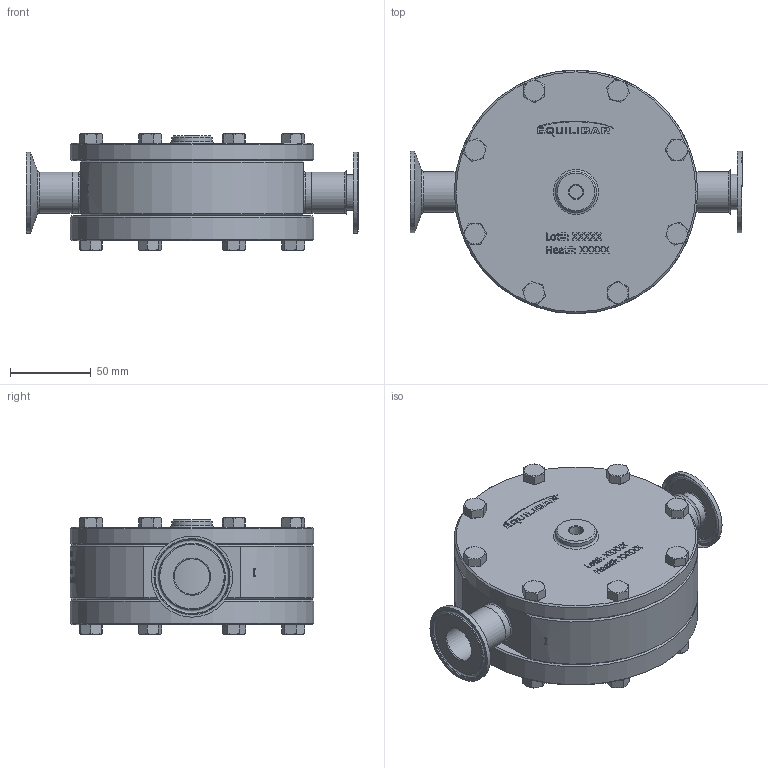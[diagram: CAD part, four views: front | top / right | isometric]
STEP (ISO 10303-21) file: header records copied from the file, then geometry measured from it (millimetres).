
FILE_DESCRIPTION(/* description */ (''),/* implementation_level */ '2;1');
FILE_NAME(/* name */ 'FDO8SHN4 External Marketing Assembly.stp',/* time_stamp */ '2024-08-19T13:25:52-04:00',/* author */ ('mkowall'),/* organization */ (''),/* preprocessor_version */ 'ST-DEVELOPER v19.2',/* originating_system */ 'Autodesk Inventor 2023',/* authorisation */ '');
FILE_SCHEMA (('AUTOMOTIVE_DESIGN { 1 0 10303 214 3 1 1 }'));
Length unit declared in the file: inch
Products named in the file (1): FDO8SHN4 External Marketing Assembly_Simplify_1
Bounding box: 206.12 x 151.13 x 72.44 mm (x, y, z)
Volume: 1103039.9 mm3; surface area: 180572.4 mm2
Topology: 25 solids, 29 shells, 2742 faces, 7306 edges, 4781 vertices
Faces by surface type: plane 1410, bspline 933, cone 202, cylinder 168, torus 29
Full cylindrical faces by diameter (mm): 6.782 x8, 7.938 x16, 7.95 x1, 8.204 x16, 8.23 x8, 12.7 x16, 22.098 x4, 25.4 x5, 50.394 x2, 127.254 x1, 151.13 x2
Entity records: 116294 total; most frequent: CARTESIAN_POINT 54195, ORIENTED_EDGE 14594, DIRECTION 9872, EDGE_CURVE 7297, VERTEX_POINT 4781, LINE 3946, VECTOR 3946, EDGE_LOOP 2964
